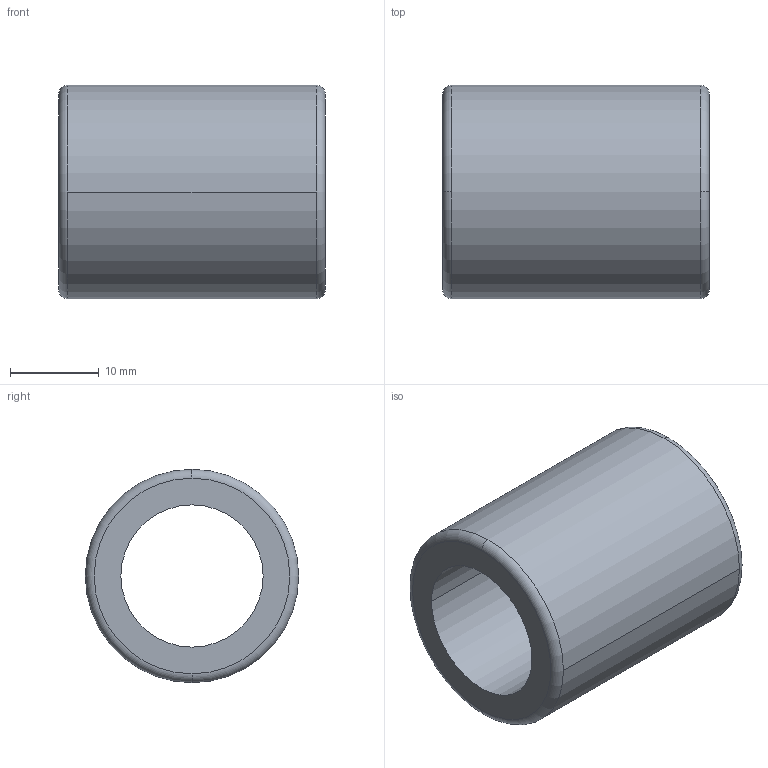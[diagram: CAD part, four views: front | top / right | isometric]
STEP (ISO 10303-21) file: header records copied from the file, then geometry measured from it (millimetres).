
FILE_DESCRIPTION (( 'STEP AP214' ), '1' );
FILE_NAME ('2.7073 Lineaarilaakeri KH16.STEP', '2024-06-12T11:36:56', ( '' ), ( '' ), 'SwSTEP 2.0', 'SolidWorks 2024', '' );
FILE_SCHEMA (( 'AUTOMOTIVE_DESIGN' ));
Length unit declared in the file: millimetre
Products named in the file (1): 2.7073 Lineaarilaakeri KH16
Bounding box: 30 x 24 x 24 mm (x, y, z)
Volume: 7508.1 mm3; surface area: 4207 mm2
Topology: 1 solids, 1 shells, 10 faces, 24 edges, 16 vertices
Faces by surface type: torus 4, cylinder 4, plane 2
Entity records: 335 total; most frequent: DIRECTION 66, CARTESIAN_POINT 51, ORIENTED_EDGE 48, AXIS2_PLACEMENT_3D 31, EDGE_CURVE 24, CIRCLE 20, VERTEX_POINT 16, EDGE_LOOP 12
